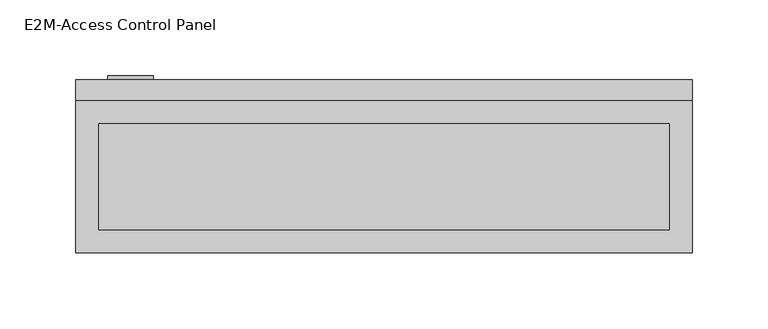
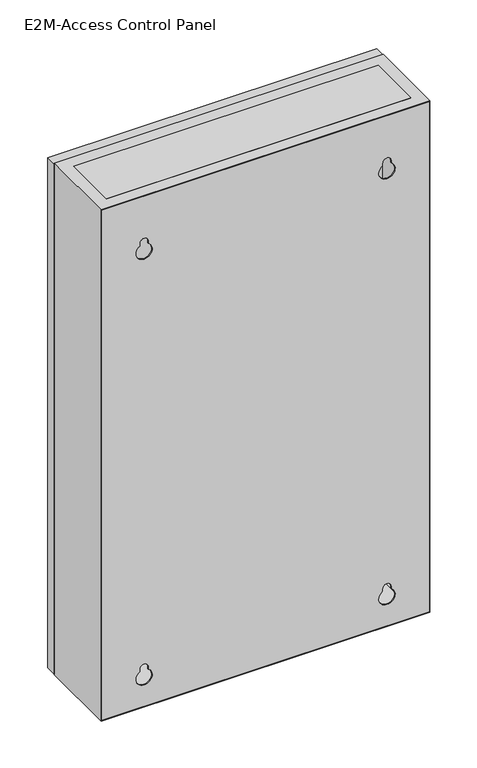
"""IFC4 building model written with IfcOpenShell, lengths in millimetres: proxy geometry, E2M_Access_Control_Panel_config6 : E2M-Access Control Panel."""

import ifcopenshell
import ifcopenshell.guid

model = None  # the IFC model being written
_history = None  # IfcOwnerHistory: only IFC2X3 demands one
_inside = {}  # id of a spatial element -> (the spatial element, [elements in it])
_under = {}  # id of a project, library or spatial element -> (it, [spatial elements below it])
_declared = {}  # id of a project -> (the project, [libraries it declares])
_typed = {}  # id of a type object -> (the type object, [elements of that type])
_made_of = {}  # id of a material, layer set ... -> (it, [elements and type objects made of it])


def new_model(schema):
    """Start an empty IFC model of exactly this schema.

    Asked for "IFC4X3", IfcOpenShell would pick the latest addendum, in which some entities
    have other attributes; the version numbers below select the first issue.
    IFC2X3 requires an IfcOwnerHistory on every rooted entity: one is made here for all.
    """
    global model, _history
    if schema == "IFC4X3":
        model = ifcopenshell.file(schema_version=(4, 3, 0, 0))
    else:
        model = ifcopenshell.file(schema=schema)
    _inside.clear()
    _under.clear()
    _declared.clear()
    _typed.clear()
    _made_of.clear()
    _history = None
    if model.schema == "IFC2X3":
        org = make("IfcOrganization", Name="unknown")
        user = make(
            "IfcPersonAndOrganization",
            ThePerson=make("IfcPerson", FamilyName="unknown"),
            TheOrganization=org,
        )
        app = make(
            "IfcApplication",
            ApplicationDeveloper=org,
            Version="unknown",
            ApplicationFullName="unknown",
            ApplicationIdentifier="unknown",
        )
        _history = make(
            "IfcOwnerHistory",
            OwningUser=user,
            OwningApplication=app,
            ChangeAction="ADDED",
            CreationDate=0,
        )
    return model


def make(cls, **values):
    """One entity of the class cls with the attributes given. An attribute that is None is left unset."""
    return model.create_entity(
        cls, **{name: value for name, value in values.items() if value is not None}
    )


def rooted(cls, **values):
    """An entity with a GlobalId (a new one), such as an element, a storey or a relation."""
    return make(cls, GlobalId=ifcopenshell.guid.new(), OwnerHistory=_history, **values)


def si_unit(unit_type, name, prefix=None):
    """IfcSIUnit, for example si_unit("LENGTHUNIT", "METRE", prefix="MILLI")."""
    return make("IfcSIUnit", UnitType=unit_type, Prefix=prefix, Name=name)


def assignment(units):
    """IfcUnitAssignment: the units of a project."""
    return None if units is None else make("IfcUnitAssignment", Units=units)


def point(xyz):
    """IfcCartesianPoint."""
    return None if xyz is None else make("IfcCartesianPoint", Coordinates=xyz)


def direction(xyz):
    """IfcDirection."""
    return None if xyz is None else make("IfcDirection", DirectionRatios=xyz)


def frame(location, z_axis=None, x_axis=None):
    """IfcAxis2Placement3D, a coordinate frame: its origin and axes. An axis left out is left unset."""
    return make(
        "IfcAxis2Placement3D",
        Location=point(location),
        Axis=direction(z_axis),
        RefDirection=direction(x_axis),
    )


def frame_2d(location, x_axis=None):
    """IfcAxis2Placement2D, a coordinate frame in the plane: its origin and x axis."""
    return make(
        "IfcAxis2Placement2D", Location=point(location), RefDirection=direction(x_axis)
    )


def origin():
    """The frame at (0, 0, 0) with its axes left unset."""
    return frame((0.0, 0.0, 0.0))


def place(relative_to, where):
    """IfcLocalPlacement: puts the frame where relative to a parent placement (None: the world)."""
    return make(
        "IfcLocalPlacement", PlacementRelTo=relative_to, RelativePlacement=where
    )


def context(
    kind, dimensions, precision=None, world=None, true_north=None, identifier=None
):
    """IfcGeometricRepresentationContext, for example the 3D "Model" context."""
    return make(
        "IfcGeometricRepresentationContext",
        ContextIdentifier=identifier,
        ContextType=kind,
        CoordinateSpaceDimension=dimensions,
        Precision=precision,
        WorldCoordinateSystem=world,
        TrueNorth=true_north,
    )


def project(units=None, contexts=None):
    """IfcProject with its units and contexts."""
    return rooted(
        "IfcProject",
        Name="project",
        RepresentationContexts=contexts,
        UnitsInContext=assignment(units),
    )


def spatial(cls, under=None, at=None, **own):
    """A site, building, storey or space (cls), placed at a placement, below another one or the project."""
    s = rooted(cls, ObjectPlacement=at, **own)
    if under is not None:
        _under.setdefault(under.id(), (under, []))[1].append(s)
    return s


def polyline(points):
    """IfcPolyline through the points."""
    return make("IfcPolyline", Points=[point(p) for p in points])


def circle_curve(where, radius):
    """IfcCircle in the frame where."""
    return make("IfcCircle", Position=where, Radius=radius)


def trimmed(basis, trim1, trim2, sense, master):
    """IfcTrimmedCurve: the piece of a basis curve between two trims."""
    return make(
        "IfcTrimmedCurve",
        BasisCurve=basis,
        Trim1=trim1,
        Trim2=trim2,
        SenseAgreement=sense,
        MasterRepresentation=master,
    )


def segment(curve, same_sense, transition):
    """IfcCompositeCurveSegment."""
    return make(
        "IfcCompositeCurveSegment",
        Transition=transition,
        SameSense=same_sense,
        ParentCurve=curve,
    )


def composite_curve(segments, self_intersect=None):
    """IfcCompositeCurve: segments joined end to end."""
    return make("IfcCompositeCurve", Segments=segments, SelfIntersect=self_intersect)


def outline(outer, holes=None, kind="AREA"):
    """IfcArbitraryClosedProfileDef: a profile drawn as a closed curve; with holes, ...WithVoids."""
    if holes is None:
        return make("IfcArbitraryClosedProfileDef", ProfileType=kind, OuterCurve=outer)
    return make(
        "IfcArbitraryProfileDefWithVoids",
        ProfileType=kind,
        OuterCurve=outer,
        InnerCurves=holes,
    )


def extrude(swept, where, along, depth):
    """IfcExtrudedAreaSolid: the profile swept, set in the frame where, extruded along a direction by depth."""
    return make(
        "IfcExtrudedAreaSolid",
        SweptArea=swept,
        Position=where,
        ExtrudedDirection=direction(along),
        Depth=depth,
    )


def shape(context_of_items, identifier, shape_type, items):
    """IfcShapeRepresentation: the items that make up one representation, for example the "Body"."""
    return make(
        "IfcShapeRepresentation",
        ContextOfItems=context_of_items,
        RepresentationIdentifier=identifier,
        RepresentationType=shape_type,
        Items=items,
    )


def source(mapping_origin, context_of_items, identifier, shape_type, items):
    """IfcRepresentationMap: a shape defined once, which mapped items show again and again."""
    return make(
        "IfcRepresentationMap",
        MappingOrigin=mapping_origin,
        MappedRepresentation=shape(context_of_items, identifier, shape_type, items),
    )


def transform(
    local_origin,
    x_axis=None,
    y_axis=None,
    z_axis=None,
    scale=None,
    scale2=None,
    scale3=None,
    uniform=True,
):
    """IfcCartesianTransformationOperator3D, or its non-uniform kind. x_axis, y_axis, z_axis: its Axis1, 2, 3."""
    if uniform:
        return make(
            "IfcCartesianTransformationOperator3D",
            Axis1=direction(x_axis),
            Axis2=direction(y_axis),
            LocalOrigin=point(local_origin),
            Scale=scale,
            Axis3=direction(z_axis),
        )
    return make(
        "IfcCartesianTransformationOperator3DnonUniform",
        Axis1=direction(x_axis),
        Axis2=direction(y_axis),
        LocalOrigin=point(local_origin),
        Scale=scale,
        Axis3=direction(z_axis),
        Scale2=scale2,
        Scale3=scale3,
    )


def mapped(mapping_source, mapping_target):
    """IfcMappedItem: shows the shape of a source again, moved by a transform."""
    return make(
        "IfcMappedItem", MappingSource=mapping_source, MappingTarget=mapping_target
    )


def made_of(thing, what):
    """Note that an element or type object is made of a material, layer set ...; save() writes the relation."""
    if what is not None:
        _made_of.setdefault(what.id(), (what, []))[1].append(thing)
    return thing


def element(
    cls,
    number,
    at=None,
    inside=None,
    cuts=None,
    type_object=None,
    material=None,
    context=None,
    identifier="Body",
    shape_type=None,
    held_by="IfcProductDefinitionShape",
    body=None,
    shapes=None,
    **own,
):
    """One element of the class cls, such as IfcWall. Its Tag is "e" and its number.

    at: its placement. inside: the storey or other place that contains it. cuts: it is an
    opening in that element (IfcRelVoidsElement). A single representation is given by context,
    identifier, shape_type and body (its items); several are given by shapes. held_by: the class
    of the entity that holds the representations. save() writes the other relations.
    """
    e = rooted(cls, Tag="e%d" % number, ObjectPlacement=at, **own)
    if body is not None:
        shapes = [shape(context, identifier, shape_type, body)]
    if shapes is not None:
        e.Representation = make(held_by, Representations=shapes)
    if inside is not None:
        _inside.setdefault(inside.id(), (inside, []))[1].append(e)
    if cuts is not None:
        rooted(
            "IfcRelVoidsElement", RelatingBuildingElement=cuts, RelatedOpeningElement=e
        )
    if type_object is not None:
        _typed.setdefault(type_object.id(), (type_object, []))[1].append(e)
    return made_of(e, material)


def aggregate(whole, parts):
    """IfcRelAggregates: a whole, such as a stair, and the parts it consists of."""
    return rooted("IfcRelAggregates", RelatingObject=whole, RelatedObjects=parts)


def save(model, path):
    """Write the relations noted so far, then the file.

    IfcRelAggregates (storeys below a building ...), IfcRelContainedInSpatialStructure (elements
    in a storey), IfcRelDefinesByType, IfcRelAssociatesMaterial and IfcRelDeclares: one each for
    every whole, place, type object, material and project.
    """
    for whole, parts in _under.values():
        aggregate(whole, parts)
    for where, things in _inside.values():
        rooted(
            "IfcRelContainedInSpatialStructure",
            RelatedElements=things,
            RelatingStructure=where,
        )
    for kind, things in _typed.values():
        rooted("IfcRelDefinesByType", RelatedObjects=things, RelatingType=kind)
    for what, things in _made_of.values():
        rooted("IfcRelAssociatesMaterial", RelatedObjects=things, RelatingMaterial=what)
    for by, libraries in _declared.values():
        rooted("IfcRelDeclares", RelatingContext=by, RelatedDefinitions=libraries)
    model.write(path)


def e2m_access_control_panel_3c231cc1(model_context):
    return source(origin(), model_context, "Body", "SweptSolid", [
        extrude(outline(polyline([(188.0, 97.0), (188.0, 27.0), (-188.0, 27.0), (-188.0, 97.0), (188.0, 97.0)])), frame((0.0, 0.0, 988.1733261), z_axis=(0.0, 0.0, 1.0), x_axis=(1.0, 0.0, 0.0)), (0.0, 0.0, 1.0), 1.0),
        extrude(outline(polyline([(188.0, 97.0), (188.0, 27.0), (-188.0, 27.0), (-188.0, 97.0), (188.0, 97.0)])), frame((0.0, 0.0, 1655.1733261), z_axis=(0.0, 0.0, 1.0), x_axis=(1.0, 0.0, 0.0)), (0.0, 0.0, 1.0), 1.0),
        extrude(outline(composite_curve([segment(trimmed(circle_curve(frame_2d((1432.2477718, -167.0)), 15.0), [point((1432.2477718, -182.0))], [point((1432.2477718, -152.0))], False, "CARTESIAN"), True, "CONTINUOUS"), segment(trimmed(circle_curve(frame_2d((1432.2477718, -167.0)), 15.0), [point((1432.2477718, -152.0))], [point((1432.2477718, -182.0))], False, "CARTESIAN"), True, "CONTINUOUS")], self_intersect=False), holes=[composite_curve([segment(trimmed(circle_curve(frame_2d((1432.2477718, -167.0)), 10.0), [point((1432.2477718, -177.0))], [point((1432.2477718, -157.0))], True, "CARTESIAN"), True, "CONTINUOUS"), segment(trimmed(circle_curve(frame_2d((1432.2477718, -167.0)), 10.0), [point((1432.2477718, -157.0))], [point((1432.2477718, -177.0))], True, "CARTESIAN"), True, "CONTINUOUS")], self_intersect=False)]), frame((0.0, 126.0, 0.0), z_axis=(0.0, 1.0, 0.0), x_axis=(0.0, 0.0, 1.0)), (0.0, 0.0, 1.0), 2.4582379),
        extrude(outline(composite_curve([segment(trimmed(circle_curve(frame_2d((1432.2477718, -167.0)), 5.0), [point((1432.2477718, -172.0))], [point((1432.2477718, -162.0))], False, "CARTESIAN"), True, "CONTINUOUS"), segment(trimmed(circle_curve(frame_2d((1432.2477718, -167.0)), 5.0), [point((1432.2477718, -162.0))], [point((1432.2477718, -172.0))], False, "CARTESIAN"), True, "CONTINUOUS")], self_intersect=False)), frame((0.0, 126.0, 0.0), z_axis=(0.0, 1.0, 0.0), x_axis=(0.0, 0.0, 1.0)), (0.0, 0.0, 1.0), 2.4582379),
        extrude(outline(polyline([(1655.1733261, -202.0), (989.1733261, -202.0), (989.1733261, 202.0), (1655.1733261, 202.0), (1655.1733261, -202.0)]), holes=[composite_curve([segment(trimmed(circle_curve(frame_2d((1595.1733261, -150.0)), 5.0), [point((1595.1733261, -155.0))], [point((1595.1733261, -145.0))], True, "CARTESIAN"), True, "CONTINUOUS"), segment(polyline([(1595.1733261, -145.0), (1591.8774316, -145.0)]), True, "CONTINUOUS"), segment(trimmed(circle_curve(frame_2d((1583.2171775, -150.0)), 10.0), [point((1591.8774316, -145.0))], [point((1591.8774316, -155.0))], True, "CARTESIAN"), True, "CONTINUOUS"), segment(polyline([(1591.8774316, -155.0), (1595.1733261, -155.0)]), True, "CONTINUOUS")], self_intersect=False), composite_curve([segment(trimmed(circle_curve(frame_2d((1595.1733261, 150.0)), 5.0), [point((1595.1733261, 145.0))], [point((1595.1733261, 155.0))], True, "CARTESIAN"), True, "CONTINUOUS"), segment(polyline([(1595.1733261, 155.0), (1591.8774316, 155.0)]), True, "CONTINUOUS"), segment(trimmed(circle_curve(frame_2d((1583.2171775, 150.0)), 10.0), [point((1591.8774316, 155.0))], [point((1591.8774316, 145.0))], True, "CARTESIAN"), True, "CONTINUOUS"), segment(polyline([(1591.8774316, 145.0), (1595.1733261, 145.0)]), True, "CONTINUOUS")], self_intersect=False), composite_curve([segment(trimmed(circle_curve(frame_2d((1039.1733261, -150.0)), 5.0), [point((1039.1733261, -155.0))], [point((1039.1733261, -145.0))], True, "CARTESIAN"), True, "CONTINUOUS"), segment(polyline([(1039.1733261, -145.0), (1035.8774316, -145.0)]), True, "CONTINUOUS"), segment(trimmed(circle_curve(frame_2d((1027.2171775, -150.0)), 10.0), [point((1035.8774316, -145.0))], [point((1035.8774316, -155.0))], True, "CARTESIAN"), True, "CONTINUOUS"), segment(polyline([(1035.8774316, -155.0), (1039.1733261, -155.0)]), True, "CONTINUOUS")], self_intersect=False), composite_curve([segment(trimmed(circle_curve(frame_2d((1039.1733261, 150.0)), 5.0), [point((1039.1733261, 145.0))], [point((1039.1733261, 155.0))], True, "CARTESIAN"), True, "CONTINUOUS"), segment(polyline([(1039.1733261, 155.0), (1035.8774316, 155.0)]), True, "CONTINUOUS"), segment(trimmed(circle_curve(frame_2d((1027.2171775, 150.0)), 10.0), [point((1035.8774316, 155.0))], [point((1035.8774316, 145.0))], True, "CARTESIAN"), True, "CONTINUOUS"), segment(polyline([(1035.8774316, 145.0), (1039.1733261, 145.0)]), True, "CONTINUOUS")], self_intersect=False)]), frame((0.0, 12.0, 0.0), z_axis=(0.0, 1.0, 0.0), x_axis=(0.0, 0.0, 1.0)), (0.0, 0.0, 1.0), 1.0),
        extrude(outline(polyline([(203.0, 112.0), (-203.0, 112.0), (-203.0, 126.0), (203.0, 126.0), (203.0, 112.0)])), frame((0.0, 0.0, 989.1733261), z_axis=(0.0, 0.0, 1.0), x_axis=(1.0, 0.0, 0.0)), (0.0, 0.0, 1.0), 666.0),
        extrude(outline(polyline([(1656.1733261, -203.0), (988.1733261, -203.0), (988.1733261, 203.0), (1656.1733261, 203.0), (1656.1733261, -203.0)]), holes=[polyline([(1655.1733261, -202.0), (1655.1733261, 202.0), (989.1733261, 202.0), (989.1733261, -202.0), (1655.1733261, -202.0)])]), frame((0.0, 12.0, 0.0), z_axis=(0.0, 1.0, 0.0), x_axis=(0.0, 0.0, 1.0)), (0.0, 0.0, 1.0), 100.0),
    ])


if __name__ == "__main__":
    model = new_model("IFC4")
    model_context = context("Model", 3, world=origin())
    ifc_project = project(units=[si_unit("LENGTHUNIT", "METRE", prefix="MILLI")], contexts=[model_context])
    site = spatial("IfcSite", under=ifc_project)
    building = spatial("IfcBuilding", under=site)
    placement = place(None, origin())
    e2m_access_control_panel_shape = e2m_access_control_panel_3c231cc1(model_context)
    element("IfcBuildingElementProxy", 1, Name="E2M_Access_Control_Panel_config6 : E2M-Access Control Panel", ObjectType="E2M_Access_Control_Panel_config6 : E2M-Access Control Panel", at=placement, inside=building, context=model_context, shape_type="MappedRepresentation", body=[
        mapped(e2m_access_control_panel_shape, transform((0.0, 0.0, 0.0), x_axis=(1.0, 0.0, 0.0), y_axis=(0.0, 1.0, 0.0), z_axis=(0.0, 0.0, 1.0))),
    ])
    save(model, "model.ifc")
